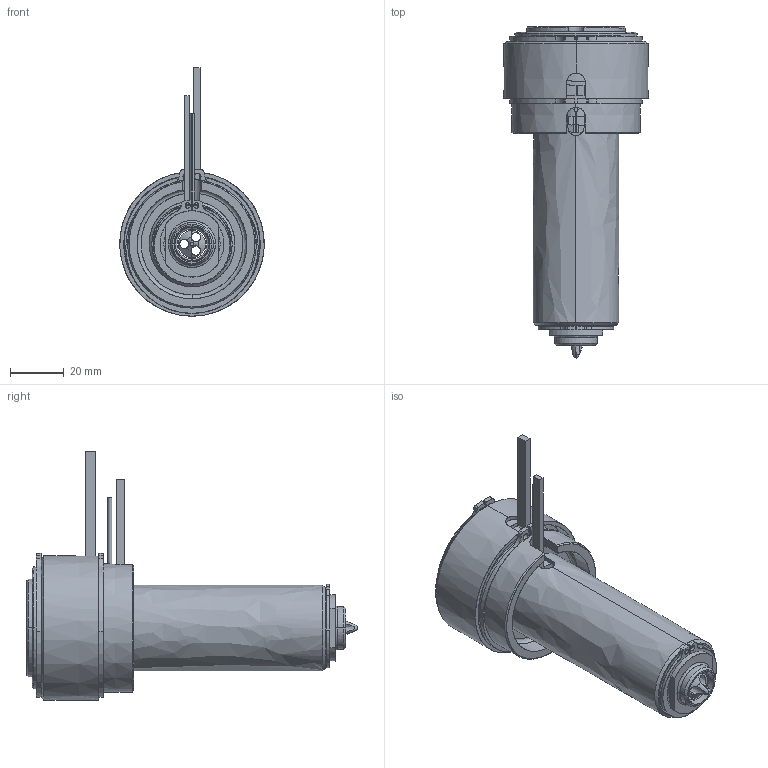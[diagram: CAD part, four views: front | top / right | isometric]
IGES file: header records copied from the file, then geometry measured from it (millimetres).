
Start section: SolidWorks IGES file using analytic representation for surfaces
Global section: file name: C:\Documents and Settings\ws-20\Desktop\TEM\UGEP5502-M-A-0 [Øf-1.36 ØC-12].IGS; native system: SolidWorks 2012; preprocessor: SolidWorks 2012; author: ws-20; date: 120427.075917; units: millimetre
Bounding box: 54 x 124.05 x 92.8 mm (x, y, z)
Surface area: 57358.3 mm2 (no closed solid volume)
Topology: 0 solids, 0 shells, 185 faces, 3640 edges, 3640 vertices
Faces by surface type: revolution 118, bspline 67
